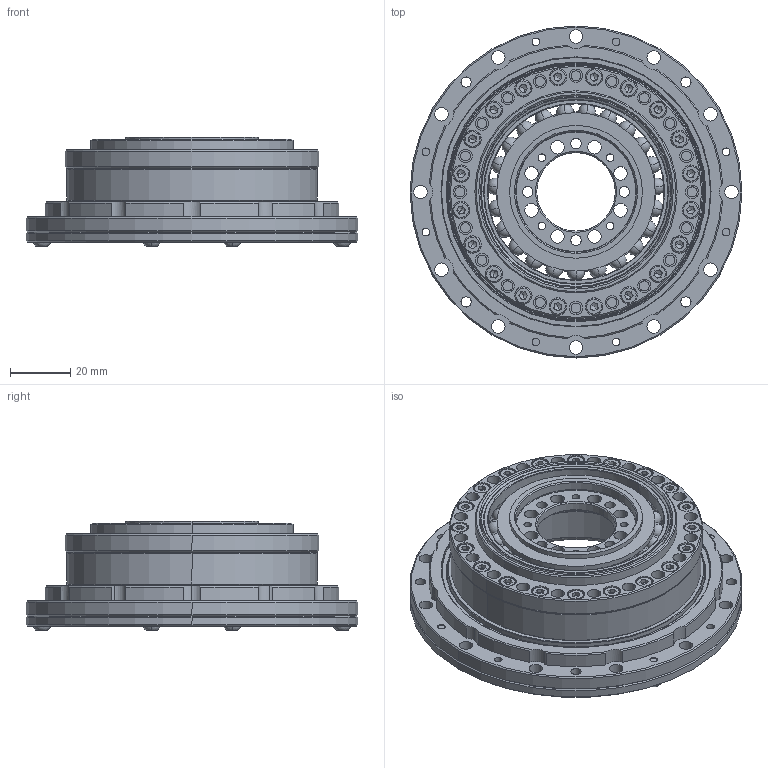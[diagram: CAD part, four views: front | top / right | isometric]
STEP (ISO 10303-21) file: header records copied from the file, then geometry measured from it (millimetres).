
FILE_DESCRIPTION (( 'STEP AP203' ), '1' );
FILE_NAME ('LHSG-25-XXX-C-I-RWL.STEP', '2025-06-14T06:34:29', ( '' ), ( '' ), 'SwSTEP 2.0', 'SolidWorks 2013', '' );
FILE_SCHEMA (( 'CONFIG_CONTROL_DESIGN' ));
Length unit declared in the file: millimetre
Products named in the file (1): LHSG-25-XXX-C-I-RWL
Bounding box: 110 x 110 x 36.45 mm (x, y, z)
Volume: 92128.2 mm3; surface area: 79873.6 mm2
Topology: 2 solids, 32 shells, 1419 faces, 3399 edges, 2097 vertices
Faces by surface type: cylinder 535, plane 486, cone 204, torus 140, sphere 54
Entity records: 40572 total; most frequent: DIRECTION 7579, CARTESIAN_POINT 7370, ORIENTED_EDGE 6366, EDGE_CURVE 3183, AXIS2_PLACEMENT_3D 3138, VERTEX_POINT 2005, EDGE_LOOP 1732, CIRCLE 1718
